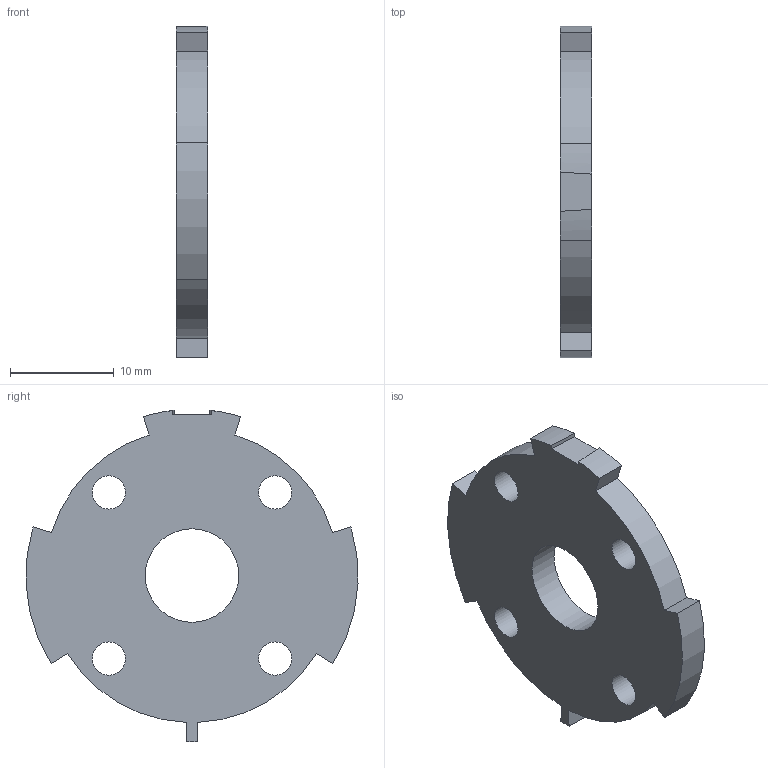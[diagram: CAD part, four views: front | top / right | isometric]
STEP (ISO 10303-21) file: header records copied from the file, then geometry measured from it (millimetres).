
FILE_DESCRIPTION(('SkyG Speed 90B - revision C6B-1 - 2026-10-07','M1-motor-plate'),'2;1');
FILE_NAME('M1-motor-plate_C6B-1','2026-10-07T21:43:16',('Author'),( 'Open CASCADE'),'Open CASCADE STEP processor 7.9','Open CASCADE 7.9' ,'Unknown');
FILE_SCHEMA(('AUTOMOTIVE_DESIGN { 1 0 10303 214 1 1 1 1 }'));
Length unit declared in the file: millimetre
Products named in the file (1): M1-motor-plate C6B-1
Bounding box: 3 x 31.97 x 31.91 mm (x, y, z)
Volume: 1793.3 mm3; surface area: 1727.7 mm2
Topology: 1 solids, 1 shells, 27 faces, 75 edges, 50 vertices
Faces by surface type: cylinder 14, plane 11, bspline 2
Full cylindrical faces by diameter (mm): 3.2 x4, 9 x1
Entity records: 2204 total; most frequent: CARTESIAN_POINT 811, DIRECTION 215, ORIENTED_EDGE 150, PCURVE 150, DEFINITIONAL_REPRESENTATION 150, B_SPLINE_CURVE_WITH_KNOTS 90, LINE 79, VECTOR 79
